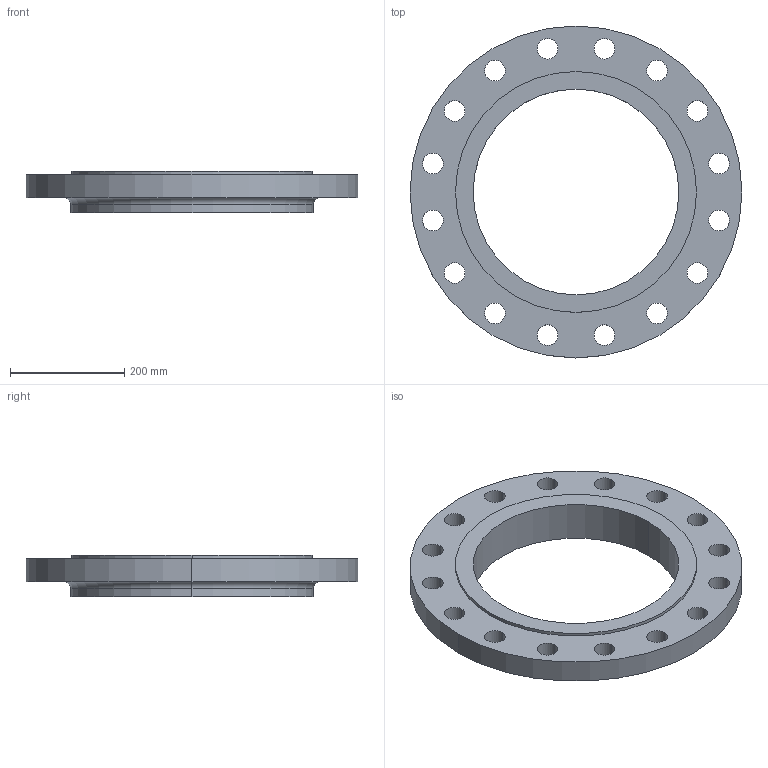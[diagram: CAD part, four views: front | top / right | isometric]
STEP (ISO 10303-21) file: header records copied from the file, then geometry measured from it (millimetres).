
FILE_DESCRIPTION (( 'STEP AP214' ), '1' );
FILE_NAME ('PN40 DN350 Type 12 - Type E Face.STEP', '2019-01-05T21:50:59', ( '' ), ( '' ), 'SwSTEP 2.0', 'SolidWorks 2019', '' );
FILE_SCHEMA (( 'AUTOMOTIVE_DESIGN' ));
Length unit declared in the file: millimetre
Products named in the file (1): PN40 DN350 Type 12 - Type E Face
Bounding box: 580 x 580 x 72 mm (x, y, z)
Volume: 7210873.3 mm3; surface area: 556344.6 mm2
Topology: 1 solids, 1 shells, 46 faces, 124 edges, 82 vertices
Faces by surface type: cylinder 40, plane 4, torus 2
Entity records: 1598 total; most frequent: DIRECTION 302, CARTESIAN_POINT 253, ORIENTED_EDGE 248, AXIS2_PLACEMENT_3D 131, EDGE_CURVE 124, CIRCLE 84, VERTEX_POINT 82, EDGE_LOOP 82
